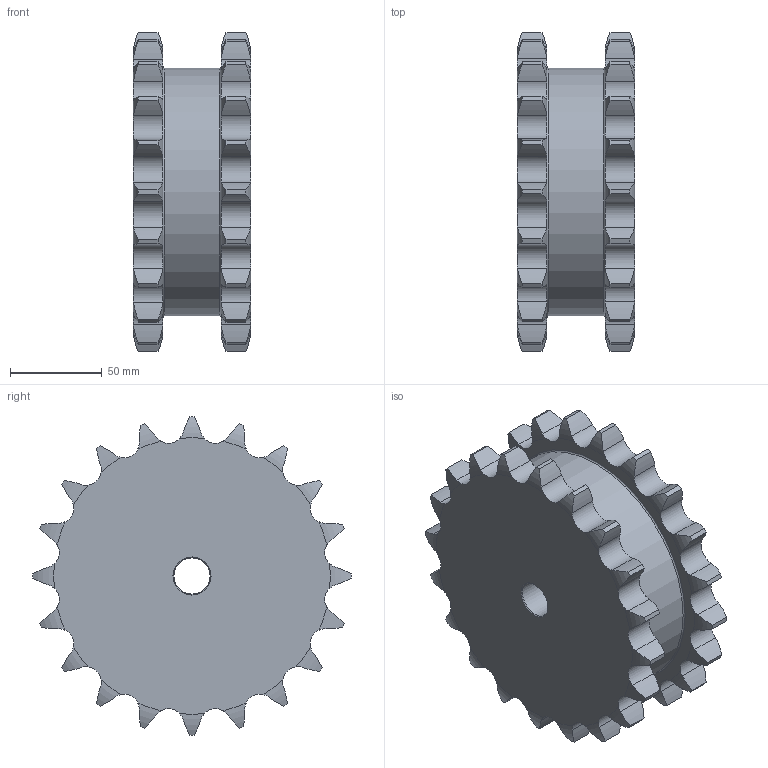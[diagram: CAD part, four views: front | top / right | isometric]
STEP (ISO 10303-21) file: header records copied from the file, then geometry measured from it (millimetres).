
FILE_DESCRIPTION(/* description */ (''),/* implementation_level */ '2;1');
FILE_NAME(/* name */ 'C:\Users\stagistaCAD\Desktop\23225020.stp',/* time_stamp */ '2018-06-25T12:10:39+02:00',/* author */ ('stagistacad'),/* organization */ (''),/* preprocessor_version */ 'ST-DEVELOPER v15.6',/* originating_system */ 'Autodesk Inventor 2015',/* authorisation */ '');
FILE_SCHEMA (('AUTOMOTIVE_DESIGN { 1 0 10303 214 3 1 1 }'));
Length unit declared in the file: millimetre
Products named in the file (1): 23225020
Bounding box: 64 x 173.49 x 173.49 mm (x, y, z)
Volume: 1053416 mm3; surface area: 88447.2 mm2
Topology: 1 solids, 1 shells, 250 faces, 734 edges, 488 vertices
Faces by surface type: cylinder 162, torus 82, plane 4, cone 2
Full cylindrical faces by diameter (mm): 19.7 x1, 135 x1
Entity records: 9268 total; most frequent: CARTESIAN_POINT 3003, ORIENTED_EDGE 1456, DIRECTION 1158, EDGE_CURVE 728, AXIS2_PLACEMENT_3D 499, VERTEX_POINT 488, B_SPLINE_CURVE_WITH_KNOTS 320, EDGE_LOOP 260
